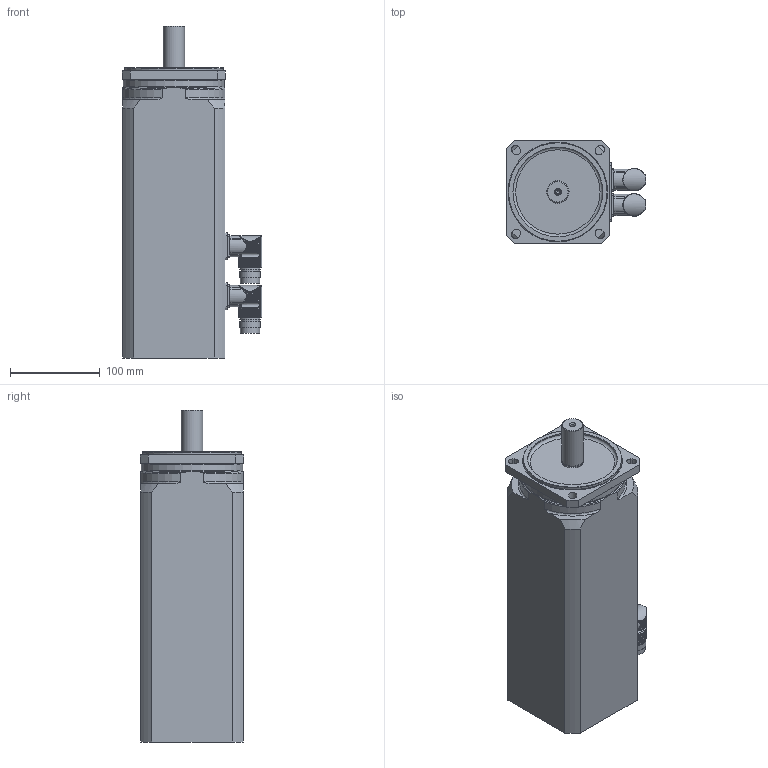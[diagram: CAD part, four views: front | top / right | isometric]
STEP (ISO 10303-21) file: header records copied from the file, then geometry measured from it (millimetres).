
FILE_DESCRIPTION(/* description */ (''),/* implementation_level */ '2;1');
FILE_NAME(/* name */ 'MR 7446-Ux-Nxxx-G##-A0D-MS',/* time_stamp */ '2007-07-13T09:50:00+01:00',/* author */ (''),/* organization */ ('ESR Pollmeier GmbH'),/* preprocessor_version */ 'ST-DEVELOPER v8',/* originating_system */ 'UNIGRAPHICS SOLUTIONS - UNIGRAPHICS 18.0',/* authorisation */ '');
FILE_SCHEMA (('AUTOMOTIVE_DESIGN { 1 2 10303 214 0 1 1 1 }'));
Length unit declared in the file: millimetre
Products named in the file (3): Winkelflanschdose_0; Rotor_SY4_0; MR7446-Ux-Nxxx-G##-A0D-MS_0
Assembly tree (3 placements, depth 2):
  MR7446-Ux-Nxxx-G##-A0D-MS_0
    Rotor_SY4_0
    Winkelflanschdose_0  x2
Bounding box: 155.49 x 115 x 370 mm (x, y, z)
Volume: 4122213.9 mm3; surface area: 190525.8 mm2
Topology: 4 solids, 4 shells, 427 faces, 1192 edges, 791 vertices
Faces by surface type: cylinder 320, plane 82, torus 15, cone 10
Full cylindrical faces by diameter (mm): 4.351 x1, 5.5 x1, 16 x2, 21 x2, 21.5 x2, 23 x4, 23.52 x1, 24 x1, 25 x1, 100 x1, 110 x1, 113 x1
Entity records: 8893 total; most frequent: CARTESIAN_POINT 2301, ORIENTED_EDGE 1382, DIRECTION 1304, EDGE_CURVE 691, AXIS2_PLACEMENT_3D 514, VERTEX_POINT 473, EDGE_LOOP 309, LINE 276
